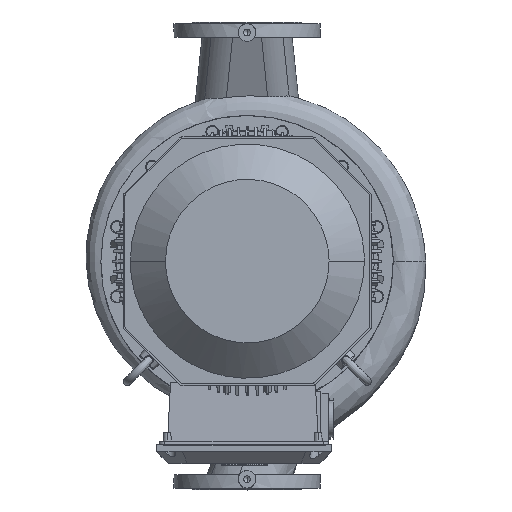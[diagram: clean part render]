
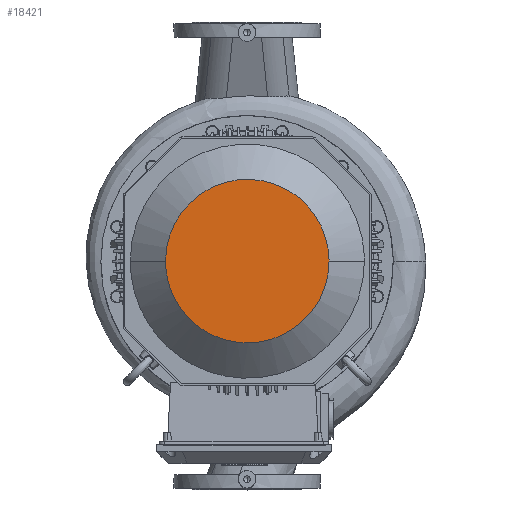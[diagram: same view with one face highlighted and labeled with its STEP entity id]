
A CAD part, top view. The second image highlights one B-rep face of the part: STEP entity #18421.
In plain terms, the highlighted free-form (B-spline) face has degree [1, 1] with [2, 2] control points.
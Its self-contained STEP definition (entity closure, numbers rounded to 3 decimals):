
#18421=ADVANCED_FACE('     F36',(#36269),#36270,.T.);
#18503=EDGE_CURVE('     E99',#36395,#36396,#36397,.T.);
#18507=EDGE_CURVE('     E99',#36396,#36395,#36401,.T.);
#36269=FACE_OUTER_BOUND('',#86486,.T.);
#36270=B_SPLINE_SURFACE_WITH_KNOTS('',1,1,((#86487,#86488),(#86489,#86490)),.UNSPECIFIED.,.F.,.F.,.F.,(2,2),(2,2),(0.044,0.955),(0.038,0.96),.UNSPECIFIED.);
#36395=VERTEX_POINT('',#86931);
#36396=VERTEX_POINT('',#86932);
#36397=(B_SPLINE_CURVE(2,(#86934,#86935,#86936,#86937,#86938),.UNSPECIFIED.,.F.,.F.)B_SPLINE_CURVE_WITH_KNOTS((3,2,3),(68.203,90.937,136.406),.UNSPECIFIED.)RATIONAL_B_SPLINE_CURVE((0.75,0.75,1.0,0.5,1.0))BOUNDED_CURVE()REPRESENTATION_ITEM('')GEOMETRIC_REPRESENTATION_ITEM()CURVE());
#36401=(B_SPLINE_CURVE(2,(#86952,#86953,#86954,#86955,#86956),.UNSPECIFIED.,.F.,.F.)B_SPLINE_CURVE_WITH_KNOTS((3,2,3),(0.0,45.469,68.203),.UNSPECIFIED.)RATIONAL_B_SPLINE_CURVE((1.0,0.5,1.0,0.75,0.75))BOUNDED_CURVE()REPRESENTATION_ITEM('')GEOMETRIC_REPRESENTATION_ITEM()CURVE());
#86486=EDGE_LOOP('',(#109832,#109833));
#86487=CARTESIAN_POINT('',(-344.319,136.863,-187.99));
#86488=CARTESIAN_POINT('',(-344.319,-143.766,-187.99));
#86489=CARTESIAN_POINT('',(-64.263,136.863,-187.99));
#86490=CARTESIAN_POINT('',(-64.263,-143.766,-187.99));
#86931=CARTESIAN_POINT('',(-343.849,-3.635,-187.99));
#86932=CARTESIAN_POINT('',(-64.273,-3.635,-187.99));
#86934=CARTESIAN_POINT('',(-343.849,-3.635,-187.99));
#86935=CARTESIAN_POINT('',(-343.849,-84.342,-187.99));
#86936=CARTESIAN_POINT('',(-273.955,-124.695,-187.99));
#86937=CARTESIAN_POINT('',(-64.273,-245.755,-187.99));
#86938=CARTESIAN_POINT('',(-64.273,-3.635,-187.99));
#86952=CARTESIAN_POINT('',(-64.273,-3.635,-187.99));
#86953=CARTESIAN_POINT('',(-64.273,238.485,-187.99));
#86954=CARTESIAN_POINT('',(-273.955,117.425,-187.99));
#86955=CARTESIAN_POINT('',(-343.849,77.072,-187.99));
#86956=CARTESIAN_POINT('',(-343.849,-3.635,-187.99));
#109832=ORIENTED_EDGE('',*,*,#18507,.F.);
#109833=ORIENTED_EDGE('',*,*,#18503,.F.);
